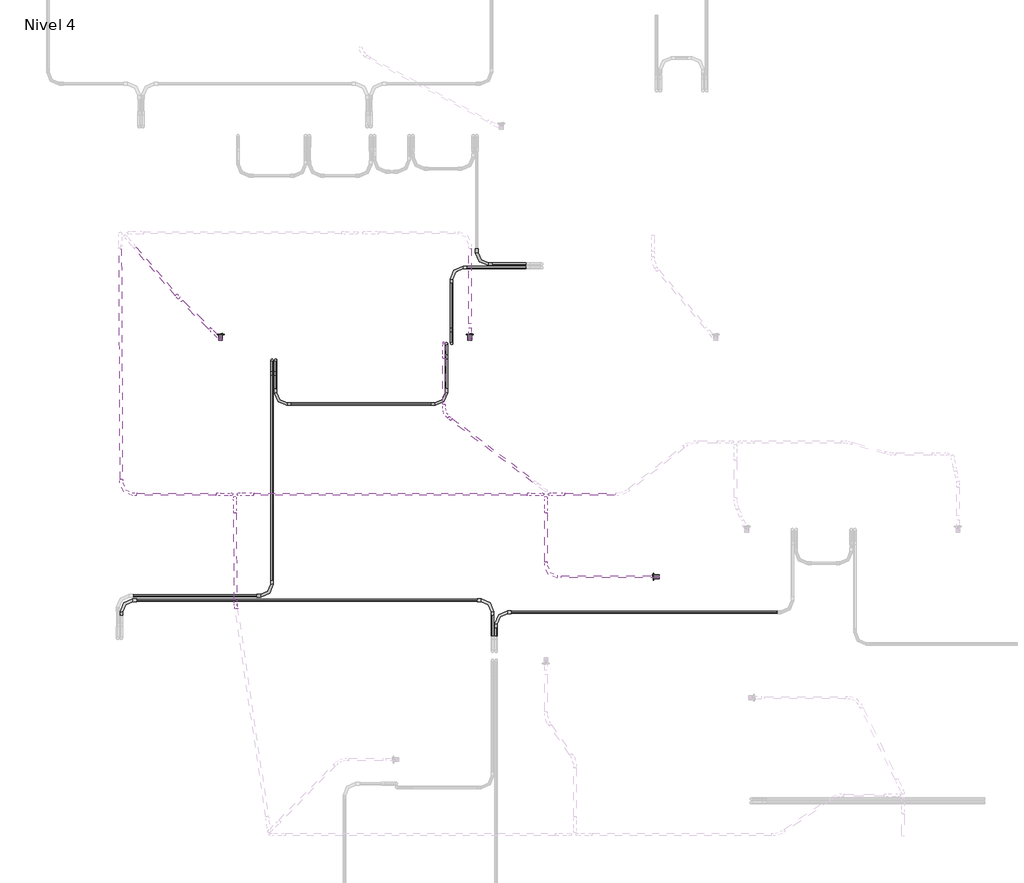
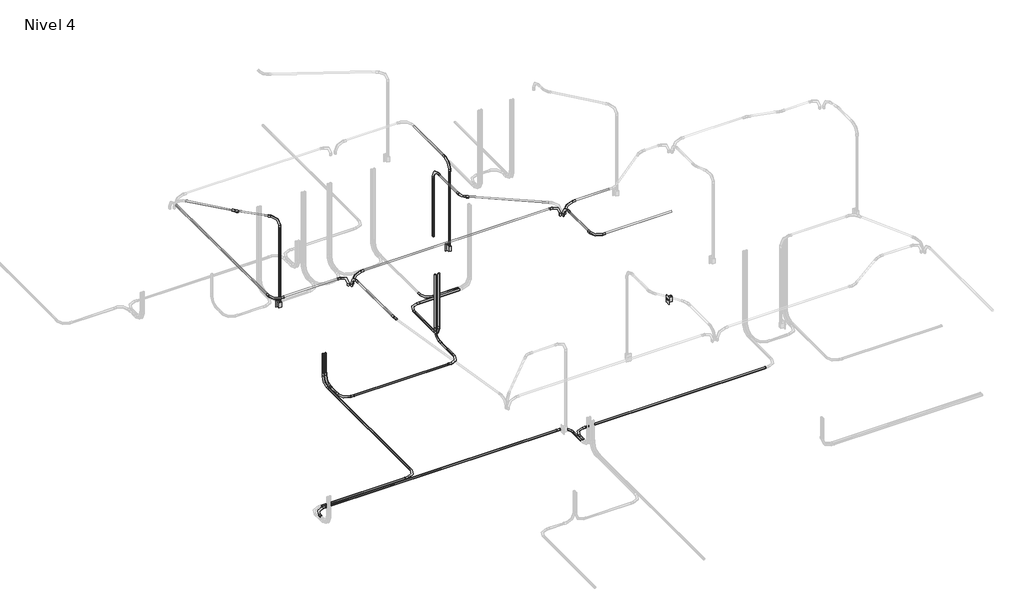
# One storey, part 3 of 9: 31 cable carrier segments, 26 cable carrier fittings, 3 switching devices.
"""IFC4 building model written with IfcOpenShell, lengths in millimetres."""

from ifc_helpers import new_model, si_unit, point, frame, frame_2d, origin, place, context, project, spatial, circle_curve, trimmed, segment, composite_curve, outline, extrude, transform, mapped, element, save
from components import m_codo_de_tubo_extremo_liso_pvc_9da73e12, m_codo_de_tubo_extremo_liso_pvc_102f0f41, m_codo_de_tubo_extremo_liso_pvc_01dea03c, m_codo_de_tubo_extremo_liso_pvc_a375e3ab, m_codo_de_tubo_extremo_liso_pvc_c9202d06, m_codo_de_tubo_extremo_liso_pvc_6ad27ddb, switching_device_22fed34b

model = new_model("IFC4")

# Units and contexts
model_context = context("Model", 3, world=origin())
ifc_project = project(units=[si_unit("LENGTHUNIT", "METRE", prefix="MILLI")], contexts=[model_context])

# Site, building, storey
site = spatial("IfcSite", under=ifc_project)
building = spatial("IfcBuilding", under=site)
storey = spatial("IfcBuildingStorey", under=building, Name="Nivel 4", Elevation=8100.0)

# Cable carrier fittings
placement = place(None, origin())
m_codo_de_tubo_extremo_liso_pvc_shape = m_codo_de_tubo_extremo_liso_pvc_9da73e12(model_context)
element("IfcCableCarrierFitting", 1, ObjectType="M_Codo de tubo - Extremo liso - PVC : CODO POTENCIA", at=placement, inside=storey, context=model_context, shape_type="MappedRepresentation", body=[
    mapped(m_codo_de_tubo_extremo_liso_pvc_shape, transform((3566.4756648, 7723.1932788, 8030.0), x_axis=(0.0, -1.0, 0.0), y_axis=(1.0, 0.0, 0.0), z_axis=(0.0, 0.0, 1.0))),
])
element("IfcCableCarrierFitting", 2, ObjectType="M_Codo de tubo - Extremo liso - PVC : CODO POTENCIA", at=placement, inside=storey, context=model_context, shape_type="MappedRepresentation", body=[
    mapped(m_codo_de_tubo_extremo_liso_pvc_shape, transform((3314.6371118, 7687.1296392, 8030.0), x_axis=(-1.0, 0.0, 0.0), y_axis=(0.0, -1.0, 0.0), z_axis=(0.0, 0.0, 1.0))),
])
element("IfcCableCarrierFitting", 3, ObjectType="M_Codo de tubo - Extremo liso - PVC : CODO POTENCIA", at=placement, inside=storey, context=model_context, shape_type="MappedRepresentation", body=[
    mapped(m_codo_de_tubo_extremo_liso_pvc_shape, transform((1557.2988878, 6764.6371118, 8030.0), x_axis=(0.0, 0.0, -1.0), y_axis=(0.0, -1.0, 0.0), z_axis=(-1.0, 0.0, 0.0))),
])
element("IfcCableCarrierFitting", 4, ObjectType="M_Codo de tubo - Extremo liso - PVC : CODO POTENCIA", at=placement, inside=storey, context=model_context, shape_type="MappedRepresentation", body=[
    mapped(m_codo_de_tubo_extremo_liso_pvc_shape, transform((1521.2352482, 6764.6371118, 8030.0), x_axis=(0.0, 0.0, -1.0), y_axis=(0.0, -1.0, 0.0), z_axis=(-1.0, 0.0, 0.0))),
])
element("IfcCableCarrierFitting", 5, ObjectType="M_Codo de tubo - Extremo liso - PVC : CODO POTENCIA", at=placement, inside=storey, context=model_context, shape_type="MappedRepresentation", body=[
    mapped(m_codo_de_tubo_extremo_liso_pvc_shape, transform((1521.2352482, 4410.0, 8030.0), x_axis=(1.0, 0.0, 0.0), y_axis=(0.0, 1.0, 0.0), z_axis=(0.0, 0.0, 1.0))),
])
element("IfcCableCarrierFitting", 6, ObjectType="M_Codo de tubo - Extremo liso - PVC : CODO POTENCIA", at=placement, inside=storey, context=model_context, shape_type="MappedRepresentation", body=[
    mapped(m_codo_de_tubo_extremo_liso_pvc_shape, transform((1557.2988878, 6324.6371118, 8030.0), x_axis=(0.0, -1.0, 0.0), y_axis=(1.0, 0.0, 0.0), z_axis=(0.0, 0.0, 1.0))),
])
element("IfcCableCarrierFitting", 7, ObjectType="M_Codo de tubo - Extremo liso - PVC : CODO POTENCIA", at=placement, inside=storey, context=model_context, shape_type="MappedRepresentation", body=[
    mapped(m_codo_de_tubo_extremo_liso_pvc_shape, transform((3262.3394839, 6324.6371118, 8030.0), x_axis=(1.0, 0.0, 0.0), y_axis=(0.0, 1.0, 0.0), z_axis=(0.0, 0.0, 1.0))),
])
element("IfcCableCarrierFitting", 8, ObjectType="M_Codo de tubo - Extremo liso - PVC : CODO POTENCIA", at=placement, inside=storey, context=model_context, shape_type="MappedRepresentation", body=[
    mapped(m_codo_de_tubo_extremo_liso_pvc_shape, transform((3723.3033726, 4365.3628882, 8030.0), x_axis=(0.0, 1.0, 0.0), y_axis=(-1.0, 0.0, 0.0), z_axis=(0.0, 0.0, 1.0))),
])
element("IfcCableCarrierFitting", 9, ObjectType="M_Codo de tubo - Extremo liso - PVC : CODO POTENCIA", at=placement, inside=storey, context=model_context, shape_type="MappedRepresentation", body=[
    mapped(m_codo_de_tubo_extremo_liso_pvc_shape, transform((17.0761068, 4365.3628882, 8030.0), x_axis=(-1.0, 0.0, 0.0), y_axis=(0.0, -1.0, 0.0), z_axis=(0.0, 0.0, 1.0))),
])
element("IfcCableCarrierFitting", 10, ObjectType="M_Codo de tubo - Extremo liso - PVC : CODO POTENCIA", at=placement, inside=storey, context=model_context, shape_type="MappedRepresentation", body=[
    mapped(m_codo_de_tubo_extremo_liso_pvc_shape, transform((3759.3670122, 4245.3628882, 8030.0), x_axis=(-1.0, 0.0, 0.0), y_axis=(0.0, -1.0, 0.0), z_axis=(0.0, 0.0, 1.0))),
])
element("IfcCableCarrierFitting", 11, ObjectType="M_Codo de tubo - Extremo liso - PVC : CODO POTENCIA", at=placement, inside=storey, context=model_context, shape_type="MappedRepresentation", body=[
    mapped(m_codo_de_tubo_extremo_liso_pvc_shape, transform((3314.6371118, 6929.6371118, 8030.0), x_axis=(0.0, -1.0, 0.0), y_axis=(0.0, 0.0, 1.0), z_axis=(-1.0, 0.0, 0.0))),
])
element("IfcCableCarrierFitting", 12, ObjectType="M_Codo de tubo - Extremo liso - PVC : CODO POTENCIA", at=placement, inside=storey, context=model_context, shape_type="MappedRepresentation", body=[
    mapped(m_codo_de_tubo_extremo_liso_pvc_shape, transform((3262.3394839, 6929.6371118, 8030.0), x_axis=(0.0, 1.0, 0.0), y_axis=(0.0, 0.0, 1.0), z_axis=(1.0, 0.0, 0.0))),
])
element("IfcCableCarrierFitting", 13, ObjectType="M_Codo de tubo - Extremo liso - PVC : CODO ILUMINACION", at=placement, inside=storey, context=model_context, shape_type="MappedRepresentation", body=[
    mapped(m_codo_de_tubo_extremo_liso_pvc_shape, transform((1185.6193562, 5423.1835713, 10650.0), x_axis=(-1.0, 0.0, 0.0), y_axis=(0.0, 0.0, -1.0), z_axis=(0.0, -1.0, 0.0))),
])
element("IfcCableCarrierFitting", 14, ObjectType="M_Codo de tubo - Extremo liso - PVC : CODO ILUMINACION", at=placement, inside=storey, context=model_context, shape_type="MappedRepresentation", body=[
    mapped(m_codo_de_tubo_extremo_liso_pvc_shape, transform((4293.3404165, 5423.1835713, 10650.0), x_axis=(-1.0, 0.0, 0.0), y_axis=(0.0, 0.0, -1.0), z_axis=(0.0, -1.0, 0.0))),
])
element("IfcCableCarrierFitting", 15, ObjectType="M_Codo de tubo - Extremo liso - PVC : CODO ILUMINACION", at=placement, inside=storey, context=model_context, shape_type="MappedRepresentation", body=[
    mapped(m_codo_de_tubo_extremo_liso_pvc_shape, transform((3497.5007971, 6971.8611243, 10650.0), x_axis=(0.0, 0.0, 1.0), y_axis=(0.0, 1.0, 0.0), z_axis=(-1.0, 0.0, 0.0))),
])
element("IfcCableCarrierFitting", 16, ObjectType="M_Codo de tubo - Extremo liso - PVC : CODO ILUMINACION", at=placement, inside=storey, context=model_context, shape_type="MappedRepresentation", body=[
    mapped(m_codo_de_tubo_extremo_liso_pvc_shape, transform((1007.1275387, 6971.8611243, 10650.0), x_axis=(0.0, 0.0, 1.0), y_axis=(-0.7107309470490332, 0.7034639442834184, 0.0), z_axis=(-0.7034639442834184, -0.7107309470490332, 0.0))),
])
element("IfcCableCarrierFitting", 17, ObjectType="M_Codo de tubo - Extremo liso - PVC : CODO ILUMINACION", at=placement, inside=storey, context=model_context, shape_type="MappedRepresentation", body=[
    mapped(m_codo_de_tubo_extremo_liso_pvc_shape, transform((4257.1192172, 5391.3745096, 10650.0), x_axis=(0.0, 1.0, 0.0), y_axis=(0.0, 0.0, -1.0), z_axis=(-1.0, 0.0, 0.0))),
])
element("IfcCableCarrierFitting", 18, ObjectType="M_Codo de tubo - Extremo liso - PVC : CODO ILUMINACION", at=placement, inside=storey, context=model_context, shape_type="MappedRepresentation", body=[
    mapped(m_codo_de_tubo_extremo_liso_pvc_shape, transform((4257.1192172, 4599.1450877, 10650.0), x_axis=(0.0, -1.0, 0.0), y_axis=(1.0, 0.0, 0.0), z_axis=(0.0, 0.0, 1.0))),
])
element("IfcCableCarrierFitting", 19, ObjectType="M_Codo de tubo - Extremo liso - PVC : CODO ILUMINACION", at=placement, inside=storey, context=model_context, shape_type="MappedRepresentation", body=[
    mapped(m_codo_de_tubo_extremo_liso_pvc_shape, transform((3238.5891384, 6934.3825168, 10650.0), x_axis=(0.0, 1.0, 0.0), y_axis=(0.0, 0.0, -1.0), z_axis=(-1.0, 0.0, 0.0))),
])
element("IfcCableCarrierFitting", 20, ObjectType="M_Codo de tubo - Extremo liso - PVC : CODO ILUMINACION", at=placement, inside=storey, context=model_context, shape_type="MappedRepresentation", body=[
    mapped(m_codo_de_tubo_extremo_liso_pvc_shape, transform((1149.6596259, 5391.3585606, 10650.0), x_axis=(-0.007684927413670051, 0.999970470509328, 0.0), y_axis=(0.0, 0.0, -1.0000000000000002), z_axis=(-0.999970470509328, -0.007684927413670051, 0.0))),
])
m_codo_de_tubo_extremo_liso_pvc_2_shape = m_codo_de_tubo_extremo_liso_pvc_102f0f41(model_context)
element("IfcCableCarrierFitting", 21, ObjectType="M_Codo de tubo - Extremo liso - PVC : CODO ILUMINACION", at=placement, inside=storey, context=model_context, shape_type="MappedRepresentation", body=[
    mapped(m_codo_de_tubo_extremo_liso_pvc_2_shape, transform((1117.5890953, 5423.1835713, 10650.0), x_axis=(1.0, 0.0, 0.0), y_axis=(0.0, 0.0, 1.0), z_axis=(0.0, -1.0, 0.0))),
])
element("IfcCableCarrierFitting", 22, ObjectType="M_Codo de tubo - Extremo liso - PVC : CODO ILUMINACION", at=placement, inside=storey, context=model_context, shape_type="MappedRepresentation", body=[
    mapped(m_codo_de_tubo_extremo_liso_pvc_2_shape, transform((4225.3101555, 5423.1835713, 10650.0), x_axis=(1.0, 0.0, 0.0), y_axis=(0.0, 0.0, 1.0), z_axis=(0.0, -1.0, 0.0))),
])
m_codo_de_tubo_extremo_liso_pvc_3_shape = m_codo_de_tubo_extremo_liso_pvc_01dea03c(model_context)
element("IfcCableCarrierFitting", 23, ObjectType="M_Codo de tubo - Extremo liso - PVC : CODO ILUMINACION", at=placement, inside=storey, context=model_context, shape_type="MappedRepresentation", body=[
    mapped(m_codo_de_tubo_extremo_liso_pvc_3_shape, transform((590.9641731, 7383.7693491, 10650.0), x_axis=(0.656059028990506, -0.7547095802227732, 0.0), y_axis=(0.7547095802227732, 0.656059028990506, 0.0), z_axis=(0.0, 0.0, 1.0))),
])
m_codo_de_tubo_extremo_liso_pvc_4_shape = m_codo_de_tubo_extremo_liso_pvc_a375e3ab(model_context)
element("IfcCableCarrierFitting", 24, ObjectType="M_Codo de tubo - Extremo liso - PVC : CODO ILUMINACION", at=placement, inside=storey, context=model_context, shape_type="MappedRepresentation", body=[
    mapped(m_codo_de_tubo_extremo_liso_pvc_4_shape, transform((16.4105658, 5423.1835713, 10650.0), x_axis=(0.004558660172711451, -0.9999896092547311, 0.0), y_axis=(0.9999896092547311, 0.004558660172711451, 0.0), z_axis=(0.0, 0.0, 1.0))),
])
m_codo_de_tubo_extremo_liso_pvc_5_shape = m_codo_de_tubo_extremo_liso_pvc_c9202d06(model_context)
element("IfcCableCarrierFitting", 25, ObjectType="M_Codo de tubo - Extremo liso - PVC : CODO ILUMINACION", at=placement, inside=storey, context=model_context, shape_type="MappedRepresentation", body=[
    mapped(m_codo_de_tubo_extremo_liso_pvc_5_shape, transform((3238.5891384, 6226.6682863, 10650.0), x_axis=(0.0, -1.0, 0.0), y_axis=(1.0, 0.0, 0.0), z_axis=(0.0, 0.0, 1.0))),
])
m_codo_de_tubo_extremo_liso_pvc_6_shape = m_codo_de_tubo_extremo_liso_pvc_6ad27ddb(model_context)
element("IfcCableCarrierFitting", 26, ObjectType="M_Codo de tubo - Extremo liso - PVC : CODO ILUMINACION", at=placement, inside=storey, context=model_context, shape_type="MappedRepresentation", body=[
    mapped(m_codo_de_tubo_extremo_liso_pvc_6_shape, transform((1157.8468904, 4326.0234866, 10650.0), x_axis=(0.007684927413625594, -0.9999704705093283, 0.0), y_axis=(0.9999704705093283, 0.007684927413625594, 0.0), z_axis=(0.0, 0.0, 1.0))),
])

# Cable carrier segments
element("IfcCableCarrierSegment", 27, ObjectType="PVC-SEL, POTENCIA", at=placement, inside=storey, context=model_context, shape_type="SweptSolid", body=[
    extrude(outline(composite_curve([segment(trimmed(circle_curve(frame_2d((7723.1932788, 8030.0)), 11.71), [point((7711.4832788, 8030.0))], [point((7723.1932788, 8041.71))], False, "CARTESIAN"), True, "CONTINUOUS"), segment(trimmed(circle_curve(frame_2d((7723.1932788, 8030.0)), 11.71), [point((7723.1932788, 8041.71))], [point((7734.9032788, 8030.0))], False, "CARTESIAN"), True, "CONTINUOUS"), segment(trimmed(circle_curve(frame_2d((7723.1932788, 8030.0)), 11.71), [point((7734.9032788, 8030.0))], [point((7723.1932788, 8018.29))], False, "CARTESIAN"), True, "CONTINUOUS"), segment(trimmed(circle_curve(frame_2d((7723.1932788, 8030.0)), 11.71), [point((7723.1932788, 8018.29))], [point((7711.4832788, 8030.0))], False, "CARTESIAN"), True, "CONTINUOUS")], self_intersect=False)), frame((3718.8756648, 0.0, 0.0), z_axis=(1.0, 0.0, 0.0), x_axis=(0.0, 1.0, 0.0)), (0.0, 0.0, 1.0), 343.361447),
])
element("IfcCableCarrierSegment", 28, ObjectType="PVC-SEL, POTENCIA", at=placement, inside=storey, context=model_context, shape_type="SweptSolid", body=[
    extrude(outline(composite_curve([segment(trimmed(circle_curve(frame_2d((7687.1296392, 8030.0)), 11.71), [point((7698.8396392, 8030.0))], [point((7687.1296392, 8018.29))], False, "CARTESIAN"), True, "CONTINUOUS"), segment(trimmed(circle_curve(frame_2d((7687.1296392, 8030.0)), 11.71), [point((7687.1296392, 8018.29))], [point((7675.4196392, 8030.0))], False, "CARTESIAN"), True, "CONTINUOUS"), segment(trimmed(circle_curve(frame_2d((7687.1296392, 8030.0)), 11.71), [point((7675.4196392, 8030.0))], [point((7687.1296392, 8041.71))], False, "CARTESIAN"), True, "CONTINUOUS"), segment(trimmed(circle_curve(frame_2d((7687.1296392, 8030.0)), 11.71), [point((7687.1296392, 8041.71))], [point((7698.8396392, 8030.0))], False, "CARTESIAN"), True, "CONTINUOUS")], self_intersect=False)), frame((3467.0371118, 0.0, 0.0), z_axis=(1.0, 0.0, 0.0), x_axis=(0.0, 1.0, 0.0)), (0.0, 0.0, 1.0), 595.2),
])
element("IfcCableCarrierSegment", 29, ObjectType="PVC-SEL, POTENCIA", at=placement, inside=storey, context=model_context, shape_type="SweptSolid", body=[
    extrude(outline(composite_curve([segment(trimmed(circle_curve(frame_2d((8030.0, 3314.6371118)), 11.71), [point((8030.0, 3302.9271118))], [point((8018.29, 3314.6371118))], False, "CARTESIAN"), True, "CONTINUOUS"), segment(trimmed(circle_curve(frame_2d((8030.0, 3314.6371118)), 11.71), [point((8018.29, 3314.6371118))], [point((8030.0, 3326.3471118))], False, "CARTESIAN"), True, "CONTINUOUS"), segment(trimmed(circle_curve(frame_2d((8030.0, 3314.6371118)), 11.71), [point((8030.0, 3326.3471118))], [point((8041.71, 3314.6371118))], False, "CARTESIAN"), True, "CONTINUOUS"), segment(trimmed(circle_curve(frame_2d((8030.0, 3314.6371118)), 11.71), [point((8041.71, 3314.6371118))], [point((8030.0, 3302.9271118))], False, "CARTESIAN"), True, "CONTINUOUS")], self_intersect=False)), frame((0.0, 7082.0371118, 0.0), z_axis=(0.0, 1.0, 0.0), x_axis=(0.0, 0.0, 1.0)), (0.0, 0.0, 1.0), 452.6925274),
])
element("IfcCableCarrierSegment", 30, ObjectType="PVC-SEL, POTENCIA", at=placement, inside=storey, context=model_context, shape_type="SweptSolid", body=[
    extrude(outline(composite_curve([segment(trimmed(circle_curve(frame_2d((8030.0, 1557.2988878)), 11.71), [point((8030.0, 1545.5888878))], [point((8018.29, 1557.2988878))], False, "CARTESIAN"), True, "CONTINUOUS"), segment(trimmed(circle_curve(frame_2d((8030.0, 1557.2988878)), 11.71), [point((8018.29, 1557.2988878))], [point((8030.0, 1569.0088878))], False, "CARTESIAN"), True, "CONTINUOUS"), segment(trimmed(circle_curve(frame_2d((8030.0, 1557.2988878)), 11.71), [point((8030.0, 1569.0088878))], [point((8041.71, 1557.2988878))], False, "CARTESIAN"), True, "CONTINUOUS"), segment(trimmed(circle_curve(frame_2d((8030.0, 1557.2988878)), 11.71), [point((8041.71, 1557.2988878))], [point((8030.0, 1545.5888878))], False, "CARTESIAN"), True, "CONTINUOUS")], self_intersect=False)), frame((0.0, 6477.0371118, 0.0), z_axis=(0.0, 1.0, 0.0), x_axis=(0.0, 0.0, 1.0)), (0.0, 0.0, 1.0), 135.2),
])
element("IfcCableCarrierSegment", 31, ObjectType="PVC-SEL, POTENCIA", at=placement, inside=storey, context=model_context, shape_type="SweptSolid", body=[
    extrude(outline(composite_curve([segment(trimmed(circle_curve(frame_2d((1557.2988878, 6764.6371118)), 11.71), [point((1569.0088878, 6764.6371118))], [point((1557.2988878, 6752.9271118))], False, "CARTESIAN"), True, "CONTINUOUS"), segment(trimmed(circle_curve(frame_2d((1557.2988878, 6764.6371118)), 11.71), [point((1557.2988878, 6752.9271118))], [point((1545.5888878, 6764.6371118))], False, "CARTESIAN"), True, "CONTINUOUS"), segment(trimmed(circle_curve(frame_2d((1557.2988878, 6764.6371118)), 11.71), [point((1545.5888878, 6764.6371118))], [point((1557.2988878, 6776.3471118))], False, "CARTESIAN"), True, "CONTINUOUS"), segment(trimmed(circle_curve(frame_2d((1557.2988878, 6764.6371118)), 11.71), [point((1557.2988878, 6776.3471118))], [point((1569.0088878, 6764.6371118))], False, "CARTESIAN"), True, "CONTINUOUS")], self_intersect=False)), frame((0.0, 0.0, 8182.4), z_axis=(0.0, 0.0, 1.0), x_axis=(1.0, 0.0, 0.0)), (0.0, 0.0, 1.0), 297.3020537),
])
element("IfcCableCarrierSegment", 32, ObjectType="PVC-SEL, POTENCIA", at=placement, inside=storey, context=model_context, shape_type="SweptSolid", body=[
    extrude(outline(composite_curve([segment(trimmed(circle_curve(frame_2d((8030.0, 1521.2352482)), 11.71), [point((8030.0, 1509.5252482))], [point((8018.29, 1521.2352482))], False, "CARTESIAN"), True, "CONTINUOUS"), segment(trimmed(circle_curve(frame_2d((8030.0, 1521.2352482)), 11.71), [point((8018.29, 1521.2352482))], [point((8030.0, 1532.9452482))], False, "CARTESIAN"), True, "CONTINUOUS"), segment(trimmed(circle_curve(frame_2d((8030.0, 1521.2352482)), 11.71), [point((8030.0, 1532.9452482))], [point((8041.71, 1521.2352482))], False, "CARTESIAN"), True, "CONTINUOUS"), segment(trimmed(circle_curve(frame_2d((8030.0, 1521.2352482)), 11.71), [point((8041.71, 1521.2352482))], [point((8030.0, 1509.5252482))], False, "CARTESIAN"), True, "CONTINUOUS")], self_intersect=False)), frame((0.0, 4562.4, 0.0), z_axis=(0.0, 1.0, 0.0), x_axis=(0.0, 0.0, 1.0)), (0.0, 0.0, 1.0), 2049.8371118),
])
element("IfcCableCarrierSegment", 33, ObjectType="PVC-SEL, POTENCIA", at=placement, inside=storey, context=model_context, shape_type="SweptSolid", body=[
    extrude(outline(composite_curve([segment(trimmed(circle_curve(frame_2d((1521.2352482, 6764.6371118)), 11.71), [point((1532.9452482, 6764.6371118))], [point((1521.2352482, 6752.9271118))], False, "CARTESIAN"), True, "CONTINUOUS"), segment(trimmed(circle_curve(frame_2d((1521.2352482, 6764.6371118)), 11.71), [point((1521.2352482, 6752.9271118))], [point((1509.5252482, 6764.6371118))], False, "CARTESIAN"), True, "CONTINUOUS"), segment(trimmed(circle_curve(frame_2d((1521.2352482, 6764.6371118)), 11.71), [point((1509.5252482, 6764.6371118))], [point((1521.2352482, 6776.3471118))], False, "CARTESIAN"), True, "CONTINUOUS"), segment(trimmed(circle_curve(frame_2d((1521.2352482, 6764.6371118)), 11.71), [point((1521.2352482, 6776.3471118))], [point((1532.9452482, 6764.6371118))], False, "CARTESIAN"), True, "CONTINUOUS")], self_intersect=False)), frame((0.0, 0.0, 8182.4), z_axis=(0.0, 0.0, 1.0), x_axis=(1.0, 0.0, 0.0)), (0.0, 0.0, 1.0), 297.3020537),
])
element("IfcCableCarrierSegment", 34, ObjectType="PVC-SEL, POTENCIA", at=placement, inside=storey, context=model_context, shape_type="SweptSolid", body=[
    extrude(outline(composite_curve([segment(trimmed(circle_curve(frame_2d((8030.0, 3759.3670122)), 11.71), [point((8030.0, 3771.0770122))], [point((8041.71, 3759.3670122))], False, "CARTESIAN"), True, "CONTINUOUS"), segment(trimmed(circle_curve(frame_2d((8030.0, 3759.3670122)), 11.71), [point((8041.71, 3759.3670122))], [point((8030.0, 3747.6570122))], False, "CARTESIAN"), True, "CONTINUOUS"), segment(trimmed(circle_curve(frame_2d((8030.0, 3759.3670122)), 11.71), [point((8030.0, 3747.6570122))], [point((8018.29, 3759.3670122))], False, "CARTESIAN"), True, "CONTINUOUS"), segment(trimmed(circle_curve(frame_2d((8030.0, 3759.3670122)), 11.71), [point((8018.29, 3759.3670122))], [point((8030.0, 3771.0770122))], False, "CARTESIAN"), True, "CONTINUOUS")], self_intersect=False)), frame((0.0, 4007.7628882, 0.0), z_axis=(0.0, 1.0, 0.0), x_axis=(0.0, 0.0, 1.0)), (0.0, 0.0, 1.0), 85.2),
])
element("IfcCableCarrierSegment", 35, ObjectType="PVC-SEL, POTENCIA", at=placement, inside=storey, context=model_context, shape_type="SweptSolid", body=[
    extrude(outline(composite_curve([segment(trimmed(circle_curve(frame_2d((8030.0, 3723.3033726)), 11.71), [point((8030.0, 3735.0133726))], [point((8041.71, 3723.3033726))], False, "CARTESIAN"), True, "CONTINUOUS"), segment(trimmed(circle_curve(frame_2d((8030.0, 3723.3033726)), 11.71), [point((8041.71, 3723.3033726))], [point((8030.0, 3711.5933726))], False, "CARTESIAN"), True, "CONTINUOUS"), segment(trimmed(circle_curve(frame_2d((8030.0, 3723.3033726)), 11.71), [point((8030.0, 3711.5933726))], [point((8018.29, 3723.3033726))], False, "CARTESIAN"), True, "CONTINUOUS"), segment(trimmed(circle_curve(frame_2d((8030.0, 3723.3033726)), 11.71), [point((8018.29, 3723.3033726))], [point((8030.0, 3735.0133726))], False, "CARTESIAN"), True, "CONTINUOUS")], self_intersect=False)), frame((0.0, 4007.7628882, 0.0), z_axis=(0.0, 1.0, 0.0), x_axis=(0.0, 0.0, 1.0)), (0.0, 0.0, 1.0), 205.2),
])
element("IfcCableCarrierSegment", 36, ObjectType="PVC-SEL, POTENCIA", at=placement, inside=storey, context=model_context, shape_type="SweptSolid", body=[
    extrude(outline(composite_curve([segment(trimmed(circle_curve(frame_2d((4410.0, 8030.0)), 11.71), [point((4421.71, 8030.0))], [point((4410.0, 8018.29))], False, "CARTESIAN"), True, "CONTINUOUS"), segment(trimmed(circle_curve(frame_2d((4410.0, 8030.0)), 11.71), [point((4410.0, 8018.29))], [point((4398.29, 8030.0))], False, "CARTESIAN"), True, "CONTINUOUS"), segment(trimmed(circle_curve(frame_2d((4410.0, 8030.0)), 11.71), [point((4398.29, 8030.0))], [point((4410.0, 8041.71))], False, "CARTESIAN"), True, "CONTINUOUS"), segment(trimmed(circle_curve(frame_2d((4410.0, 8030.0)), 11.71), [point((4410.0, 8041.71))], [point((4421.71, 8030.0))], False, "CARTESIAN"), True, "CONTINUOUS")], self_intersect=False)), frame((133.4124672, 0.0, 0.0), z_axis=(1.0, 0.0, 0.0), x_axis=(0.0, 1.0, 0.0)), (0.0, 0.0, 1.0), 1235.422781),
])
element("IfcCableCarrierSegment", 37, ObjectType="PVC-SEL, POTENCIA", at=placement, inside=storey, context=model_context, shape_type="SweptSolid", body=[
    extrude(outline(composite_curve([segment(trimmed(circle_curve(frame_2d((6324.6371118, 8030.0)), 11.71), [point((6312.9271118, 8030.0))], [point((6324.6371118, 8041.71))], False, "CARTESIAN"), True, "CONTINUOUS"), segment(trimmed(circle_curve(frame_2d((6324.6371118, 8030.0)), 11.71), [point((6324.6371118, 8041.71))], [point((6336.3471118, 8030.0))], False, "CARTESIAN"), True, "CONTINUOUS"), segment(trimmed(circle_curve(frame_2d((6324.6371118, 8030.0)), 11.71), [point((6336.3471118, 8030.0))], [point((6324.6371118, 8018.29))], False, "CARTESIAN"), True, "CONTINUOUS"), segment(trimmed(circle_curve(frame_2d((6324.6371118, 8030.0)), 11.71), [point((6324.6371118, 8018.29))], [point((6312.9271118, 8030.0))], False, "CARTESIAN"), True, "CONTINUOUS")], self_intersect=False)), frame((1709.6988878, 0.0, 0.0), z_axis=(1.0, 0.0, 0.0), x_axis=(0.0, 1.0, 0.0)), (0.0, 0.0, 1.0), 1400.2405961),
])
element("IfcCableCarrierSegment", 38, ObjectType="PVC-SEL, POTENCIA", at=placement, inside=storey, context=model_context, shape_type="SweptSolid", body=[
    extrude(outline(composite_curve([segment(trimmed(circle_curve(frame_2d((8030.0, 3262.3394839)), 11.71), [point((8030.0, 3274.0494839))], [point((8041.71, 3262.3394839))], False, "CARTESIAN"), True, "CONTINUOUS"), segment(trimmed(circle_curve(frame_2d((8030.0, 3262.3394839)), 11.71), [point((8041.71, 3262.3394839))], [point((8030.0, 3250.6294839))], False, "CARTESIAN"), True, "CONTINUOUS"), segment(trimmed(circle_curve(frame_2d((8030.0, 3262.3394839)), 11.71), [point((8030.0, 3250.6294839))], [point((8018.29, 3262.3394839))], False, "CARTESIAN"), True, "CONTINUOUS"), segment(trimmed(circle_curve(frame_2d((8030.0, 3262.3394839)), 11.71), [point((8018.29, 3262.3394839))], [point((8030.0, 3274.0494839))], False, "CARTESIAN"), True, "CONTINUOUS")], self_intersect=False)), frame((0.0, 6477.0371118, 0.0), z_axis=(0.0, 1.0, 0.0), x_axis=(0.0, 0.0, 1.0)), (0.0, 0.0, 1.0), 300.2),
])
element("IfcCableCarrierSegment", 39, ObjectType="PVC-SEL, POTENCIA", at=placement, inside=storey, context=model_context, shape_type="SweptSolid", body=[
    extrude(outline(composite_curve([segment(trimmed(circle_curve(frame_2d((4365.3628882, 8030.0)), 11.71), [point((4377.0728882, 8030.0))], [point((4365.3628882, 8018.29))], False, "CARTESIAN"), True, "CONTINUOUS"), segment(trimmed(circle_curve(frame_2d((4365.3628882, 8030.0)), 11.71), [point((4365.3628882, 8018.29))], [point((4353.6528882, 8030.0))], False, "CARTESIAN"), True, "CONTINUOUS"), segment(trimmed(circle_curve(frame_2d((4365.3628882, 8030.0)), 11.71), [point((4353.6528882, 8030.0))], [point((4365.3628882, 8041.71))], False, "CARTESIAN"), True, "CONTINUOUS"), segment(trimmed(circle_curve(frame_2d((4365.3628882, 8030.0)), 11.71), [point((4365.3628882, 8041.71))], [point((4377.0728882, 8030.0))], False, "CARTESIAN"), True, "CONTINUOUS")], self_intersect=False)), frame((169.4761068, 0.0, 0.0), z_axis=(1.0, 0.0, 0.0), x_axis=(0.0, 1.0, 0.0)), (0.0, 0.0, 1.0), 3401.4272658),
])
element("IfcCableCarrierSegment", 40, ObjectType="PVC-SEL, POTENCIA", at=placement, inside=storey, context=model_context, shape_type="SweptSolid", body=[
    extrude(outline(composite_curve([segment(trimmed(circle_curve(frame_2d((4245.3628882, 8030.0)), 11.71), [point((4257.0728882, 8030.0))], [point((4245.3628882, 8018.29))], False, "CARTESIAN"), True, "CONTINUOUS"), segment(trimmed(circle_curve(frame_2d((4245.3628882, 8030.0)), 11.71), [point((4245.3628882, 8018.29))], [point((4233.6528882, 8030.0))], False, "CARTESIAN"), True, "CONTINUOUS"), segment(trimmed(circle_curve(frame_2d((4245.3628882, 8030.0)), 11.71), [point((4233.6528882, 8030.0))], [point((4245.3628882, 8041.71))], False, "CARTESIAN"), True, "CONTINUOUS"), segment(trimmed(circle_curve(frame_2d((4245.3628882, 8030.0)), 11.71), [point((4245.3628882, 8041.71))], [point((4257.0728882, 8030.0))], False, "CARTESIAN"), True, "CONTINUOUS")], self_intersect=False)), frame((3911.7670122, 0.0, 0.0), z_axis=(1.0, 0.0, 0.0), x_axis=(0.0, 1.0, 0.0)), (0.0, 0.0, 1.0), 2655.2595015),
])
element("IfcCableCarrierSegment", 41, ObjectType="PVC-SEL, POTENCIA", at=placement, inside=storey, context=model_context, shape_type="SweptSolid", body=[
    extrude(outline(composite_curve([segment(trimmed(circle_curve(frame_2d((3314.6371118, 6929.6371118)), 11.71), [point((3302.9271118, 6929.6371118))], [point((3314.6371118, 6941.3471118))], False, "CARTESIAN"), True, "CONTINUOUS"), segment(trimmed(circle_curve(frame_2d((3314.6371118, 6929.6371118)), 11.71), [point((3314.6371118, 6941.3471118))], [point((3326.3471118, 6929.6371118))], False, "CARTESIAN"), True, "CONTINUOUS"), segment(trimmed(circle_curve(frame_2d((3314.6371118, 6929.6371118)), 11.71), [point((3326.3471118, 6929.6371118))], [point((3314.6371118, 6917.9271118))], False, "CARTESIAN"), True, "CONTINUOUS"), segment(trimmed(circle_curve(frame_2d((3314.6371118, 6929.6371118)), 11.71), [point((3314.6371118, 6917.9271118))], [point((3302.9271118, 6929.6371118))], False, "CARTESIAN"), True, "CONTINUOUS")], self_intersect=False)), frame((0.0, 0.0, 8182.4), z_axis=(0.0, 0.0, 1.0), x_axis=(1.0, 0.0, 0.0)), (0.0, 0.0, 1.0), 817.6),
])
element("IfcCableCarrierSegment", 42, ObjectType="PVC-SEL, POTENCIA", at=placement, inside=storey, context=model_context, shape_type="SweptSolid", body=[
    extrude(outline(composite_curve([segment(trimmed(circle_curve(frame_2d((3262.3394839, 6929.6371118)), 11.71), [point((3250.6294839, 6929.6371118))], [point((3262.3394839, 6941.3471118))], False, "CARTESIAN"), True, "CONTINUOUS"), segment(trimmed(circle_curve(frame_2d((3262.3394839, 6929.6371118)), 11.71), [point((3262.3394839, 6941.3471118))], [point((3274.0494839, 6929.6371118))], False, "CARTESIAN"), True, "CONTINUOUS"), segment(trimmed(circle_curve(frame_2d((3262.3394839, 6929.6371118)), 11.71), [point((3274.0494839, 6929.6371118))], [point((3262.3394839, 6917.9271118))], False, "CARTESIAN"), True, "CONTINUOUS"), segment(trimmed(circle_curve(frame_2d((3262.3394839, 6929.6371118)), 11.71), [point((3262.3394839, 6917.9271118))], [point((3250.6294839, 6929.6371118))], False, "CARTESIAN"), True, "CONTINUOUS")], self_intersect=False)), frame((0.0, 0.0, 8182.4), z_axis=(0.0, 0.0, 1.0), x_axis=(1.0, 0.0, 0.0)), (0.0, 0.0, 1.0), 817.6),
])
element("IfcCableCarrierSegment", 43, ObjectType="PVC-SEL ILUMINACION", at=placement, inside=storey, context=model_context, shape_type="SweptSolid", body=[
    extrude(outline(composite_curve([segment(trimmed(circle_curve(frame_2d((5423.1835713, 10650.0)), 11.71), [point((5434.8935713, 10650.0))], [point((5423.1835713, 10638.29))], False, "CARTESIAN"), True, "CONTINUOUS"), segment(trimmed(circle_curve(frame_2d((5423.1835713, 10650.0)), 11.71), [point((5423.1835713, 10638.29))], [point((5411.4735713, 10650.0))], False, "CARTESIAN"), True, "CONTINUOUS"), segment(trimmed(circle_curve(frame_2d((5423.1835713, 10650.0)), 11.71), [point((5411.4735713, 10650.0))], [point((5423.1835713, 10661.71))], False, "CARTESIAN"), True, "CONTINUOUS"), segment(trimmed(circle_curve(frame_2d((5423.1835713, 10650.0)), 11.71), [point((5423.1835713, 10661.71))], [point((5434.8935713, 10650.0))], False, "CARTESIAN"), True, "CONTINUOUS")], self_intersect=False)), frame((1338.0193562, 0.0, 0.0), z_axis=(1.0, 0.0, 0.0), x_axis=(0.0, 1.0, 0.0)), (0.0, 0.0, 1.0), 2734.8907993),
])
element("IfcCableCarrierSegment", 44, ObjectType="PVC-SEL ILUMINACION", at=placement, inside=storey, context=model_context, shape_type="SweptSolid", body=[
    extrude(outline(composite_curve([segment(trimmed(circle_curve(frame_2d((10650.0, 3497.5007971)), 11.71), [point((10650.0, 3485.7907971))], [point((10638.29, 3497.5007971))], False, "CARTESIAN"), True, "CONTINUOUS"), segment(trimmed(circle_curve(frame_2d((10650.0, 3497.5007971)), 11.71), [point((10638.29, 3497.5007971))], [point((10650.0, 3509.2107971))], False, "CARTESIAN"), True, "CONTINUOUS"), segment(trimmed(circle_curve(frame_2d((10650.0, 3497.5007971)), 11.71), [point((10650.0, 3509.2107971))], [point((10661.71, 3497.5007971))], False, "CARTESIAN"), True, "CONTINUOUS"), segment(trimmed(circle_curve(frame_2d((10650.0, 3497.5007971)), 11.71), [point((10661.71, 3497.5007971))], [point((10650.0, 3485.7907971))], False, "CARTESIAN"), True, "CONTINUOUS")], self_intersect=False)), frame((0.0, 7124.2611243, 0.0), z_axis=(0.0, 1.0, 0.0), x_axis=(0.0, 0.0, 1.0)), (0.0, 0.0, 1.0), 757.9290445),
])
element("IfcCableCarrierSegment", 45, ObjectType="PVC-SEL ILUMINACION", at=placement, inside=storey, context=model_context, shape_type="SweptSolid", body=[
    extrude(outline(composite_curve([segment(trimmed(circle_curve(frame_2d((3497.5007971, 6971.8611243)), 11.71), [point((3485.7907971, 6971.8611243))], [point((3497.5007971, 6983.5711243))], False, "CARTESIAN"), True, "CONTINUOUS"), segment(trimmed(circle_curve(frame_2d((3497.5007971, 6971.8611243)), 11.71), [point((3497.5007971, 6983.5711243))], [point((3509.2107971, 6971.8611243))], False, "CARTESIAN"), True, "CONTINUOUS"), segment(trimmed(circle_curve(frame_2d((3497.5007971, 6971.8611243)), 11.71), [point((3509.2107971, 6971.8611243))], [point((3497.5007971, 6960.1511243))], False, "CARTESIAN"), True, "CONTINUOUS"), segment(trimmed(circle_curve(frame_2d((3497.5007971, 6971.8611243)), 11.71), [point((3497.5007971, 6960.1511243))], [point((3485.7907971, 6971.8611243))], False, "CARTESIAN"), True, "CONTINUOUS")], self_intersect=False)), frame((0.0, 0.0, 9340.2227463), z_axis=(0.0, 0.0, 1.0), x_axis=(1.0, 0.0, 0.0)), (0.0, 0.0, 1.0), 1157.3772537),
])
element("IfcCableCarrierSegment", 46, ObjectType="PVC-SEL ILUMINACION", at=placement, inside=storey, context=model_context, shape_type="SweptSolid", body=[
    extrude(outline(composite_curve([segment(trimmed(circle_curve(frame_2d((0.0, -11.71)), 11.71), [point((-11.71, -11.71))], [point((0.0, 0.0))], False, "CARTESIAN"), True, "CONTINUOUS"), segment(trimmed(circle_curve(frame_2d((0.0, -11.71)), 11.71), [point((0.0, 0.0))], [point((11.7099999, -11.71))], False, "CARTESIAN"), True, "CONTINUOUS"), segment(trimmed(circle_curve(frame_2d((0.0, -11.71)), 11.71), [point((11.7099999, -11.71))], [point((0.0, -23.42))], False, "CARTESIAN"), True, "CONTINUOUS"), segment(trimmed(circle_curve(frame_2d((0.0, -11.71)), 11.71), [point((0.0, -23.42))], [point((-11.71, -11.71))], False, "CARTESIAN"), True, "CONTINUOUS")], self_intersect=False)), frame((563.1567842, 7415.7580908, 10638.29), z_axis=(-0.6560590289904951, 0.7547095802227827, 0.0), x_axis=(0.7547095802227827, 0.6560590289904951, 0.0)), (0.0, 0.0, 1.0), 624.949927),
])
element("IfcCableCarrierSegment", 47, ObjectType="PVC-SEL ILUMINACION", at=placement, inside=storey, context=model_context, shape_type="SweptSolid", body=[
    extrude(outline(composite_curve([segment(trimmed(circle_curve(frame_2d((0.0, -11.71)), 11.71), [point((-11.71, -11.71))], [point((0.0, 0.0))], False, "CARTESIAN"), True, "CONTINUOUS"), segment(trimmed(circle_curve(frame_2d((0.0, -11.71)), 11.71), [point((0.0, 0.0))], [point((11.7099999, -11.71))], False, "CARTESIAN"), True, "CONTINUOUS"), segment(trimmed(circle_curve(frame_2d((0.0, -11.71)), 11.71), [point((11.7099999, -11.71))], [point((0.0, -23.42))], False, "CARTESIAN"), True, "CONTINUOUS"), segment(trimmed(circle_curve(frame_2d((0.0, -11.71)), 11.71), [point((0.0, -23.42))], [point((-11.71, -11.71))], False, "CARTESIAN"), True, "CONTINUOUS")], self_intersect=False)), frame((898.8121424, 7079.0690295, 10638.29), z_axis=(-0.7107309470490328, 0.7034639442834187, 0.0), x_axis=(0.7034639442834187, 0.7107309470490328, 0.0)), (0.0, 0.0, 1.0), 390.7572692),
])
element("IfcCableCarrierSegment", 48, ObjectType="PVC-SEL ILUMINACION", at=placement, inside=storey, context=model_context, shape_type="SweptSolid", body=[
    extrude(outline(composite_curve([segment(trimmed(circle_curve(frame_2d((1007.1275387, 6971.8611243)), 11.71), [point((995.4175387, 6971.8611243))], [point((1007.1275387, 6983.5711243))], False, "CARTESIAN"), True, "CONTINUOUS"), segment(trimmed(circle_curve(frame_2d((1007.1275387, 6971.8611243)), 11.71), [point((1007.1275387, 6983.5711243))], [point((1018.8375387, 6971.8611243))], False, "CARTESIAN"), True, "CONTINUOUS"), segment(trimmed(circle_curve(frame_2d((1007.1275387, 6971.8611243)), 11.71), [point((1018.8375387, 6971.8611243))], [point((1007.1275387, 6960.1511243))], False, "CARTESIAN"), True, "CONTINUOUS"), segment(trimmed(circle_curve(frame_2d((1007.1275387, 6971.8611243)), 11.71), [point((1007.1275387, 6960.1511243))], [point((995.4175387, 6971.8611243))], False, "CARTESIAN"), True, "CONTINUOUS")], self_intersect=False)), frame((0.0, 0.0, 9340.2227463), z_axis=(0.0, 0.0, 1.0), x_axis=(1.0, 0.0, 0.0)), (0.0, 0.0, 1.0), 1157.3772537),
])
element("IfcCableCarrierSegment", 49, ObjectType="PVC-SEL ILUMINACION", at=placement, inside=storey, context=model_context, shape_type="SweptSolid", body=[
    extrude(outline(composite_curve([segment(trimmed(circle_curve(frame_2d((0.0, 11.71)), 11.71), [point((11.71, 11.71))], [point((0.0, 0.0))], False, "CARTESIAN"), True, "CONTINUOUS"), segment(trimmed(circle_curve(frame_2d((0.0, 11.71)), 11.71), [point((0.0, 0.0))], [point((-11.71, 11.71))], False, "CARTESIAN"), True, "CONTINUOUS"), segment(trimmed(circle_curve(frame_2d((0.0, 11.71)), 11.71), [point((-11.71, 11.71))], [point((0.0, 23.42))], False, "CARTESIAN"), True, "CONTINUOUS"), segment(trimmed(circle_curve(frame_2d((0.0, 11.71)), 11.71), [point((0.0, 23.42))], [point((11.71, 11.71))], False, "CARTESIAN"), True, "CONTINUOUS")], self_intersect=False)), frame((15.7181959, 5575.0621205, 10661.71), z_axis=(-0.004558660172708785, 0.9999896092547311, 0.0), x_axis=(0.9999896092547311, 0.004558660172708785, 0.0)), (0.0, 0.0, 1.0), 2302.0964035),
])
element("IfcCableCarrierSegment", 50, ObjectType="PVC-SEL ILUMINACION", at=placement, inside=storey, context=model_context, shape_type="SweptSolid", body=[
    extrude(outline(composite_curve([segment(trimmed(circle_curve(frame_2d((5423.1835713, 10650.0)), 11.71), [point((5434.8935713, 10650.0))], [point((5423.1835713, 10638.29))], False, "CARTESIAN"), True, "CONTINUOUS"), segment(trimmed(circle_curve(frame_2d((5423.1835713, 10650.0)), 11.71), [point((5423.1835713, 10638.29))], [point((5411.4735713, 10650.0))], False, "CARTESIAN"), True, "CONTINUOUS"), segment(trimmed(circle_curve(frame_2d((5423.1835713, 10650.0)), 11.71), [point((5411.4735713, 10650.0))], [point((5423.1835713, 10661.71))], False, "CARTESIAN"), True, "CONTINUOUS"), segment(trimmed(circle_curve(frame_2d((5423.1835713, 10650.0)), 11.71), [point((5423.1835713, 10661.71))], [point((5434.8935713, 10650.0))], False, "CARTESIAN"), True, "CONTINUOUS")], self_intersect=False)), frame((168.2906932, 0.0, 0.0), z_axis=(1.0, 0.0, 0.0), x_axis=(0.0, 1.0, 0.0)), (0.0, 0.0, 1.0), 796.8984021),
])
element("IfcCableCarrierSegment", 51, ObjectType="PVC-SEL ILUMINACION", at=placement, inside=storey, context=model_context, shape_type="SweptSolid", body=[
    extrude(outline(composite_curve([segment(trimmed(circle_curve(frame_2d((5423.1835713, 10650.0)), 11.71), [point((5411.4735713, 10650.0))], [point((5423.1835713, 10661.71))], False, "CARTESIAN"), True, "CONTINUOUS"), segment(trimmed(circle_curve(frame_2d((5423.1835713, 10650.0)), 11.71), [point((5423.1835713, 10661.71))], [point((5434.8935713, 10650.0))], False, "CARTESIAN"), True, "CONTINUOUS"), segment(trimmed(circle_curve(frame_2d((5423.1835713, 10650.0)), 11.71), [point((5434.8935713, 10650.0))], [point((5423.1835713, 10638.29))], False, "CARTESIAN"), True, "CONTINUOUS"), segment(trimmed(circle_curve(frame_2d((5423.1835713, 10650.0)), 11.71), [point((5423.1835713, 10638.29))], [point((5411.4735713, 10650.0))], False, "CARTESIAN"), True, "CONTINUOUS")], self_intersect=False)), frame((4445.7404165, 0.0, 0.0), z_axis=(1.0, 0.0, 0.0), x_axis=(0.0, 1.0, 0.0)), (0.0, 0.0, 1.0), 502.5433538),
])
element("IfcCableCarrierSegment", 52, ObjectType="PVC-SEL ILUMINACION", at=placement, inside=storey, context=model_context, shape_type="SweptSolid", body=[
    extrude(outline(composite_curve([segment(trimmed(circle_curve(frame_2d((10650.0, 4257.1192172)), 11.71), [point((10650.0, 4245.4092172))], [point((10638.29, 4257.1192172))], False, "CARTESIAN"), True, "CONTINUOUS"), segment(trimmed(circle_curve(frame_2d((10650.0, 4257.1192172)), 11.71), [point((10638.29, 4257.1192172))], [point((10650.0, 4268.8292172))], False, "CARTESIAN"), True, "CONTINUOUS"), segment(trimmed(circle_curve(frame_2d((10650.0, 4257.1192172)), 11.71), [point((10650.0, 4268.8292172))], [point((10661.71, 4257.1192172))], False, "CARTESIAN"), True, "CONTINUOUS"), segment(trimmed(circle_curve(frame_2d((10650.0, 4257.1192172)), 11.71), [point((10661.71, 4257.1192172))], [point((10650.0, 4245.4092172))], False, "CARTESIAN"), True, "CONTINUOUS")], self_intersect=False)), frame((0.0, 4751.5450877, 0.0), z_axis=(0.0, 1.0, 0.0), x_axis=(0.0, 0.0, 1.0)), (0.0, 0.0, 1.0), 487.4294219),
])
element("IfcCableCarrierSegment", 53, ObjectType="PVC-SEL ILUMINACION", at=placement, inside=storey, context=model_context, shape_type="SweptSolid", body=[
    extrude(outline(composite_curve([segment(trimmed(circle_curve(frame_2d((4599.1450877, 10650.0)), 11.71), [point((4587.4350877, 10650.0))], [point((4599.1450877, 10661.71))], False, "CARTESIAN"), True, "CONTINUOUS"), segment(trimmed(circle_curve(frame_2d((4599.1450877, 10650.0)), 11.71), [point((4599.1450877, 10661.71))], [point((4610.8550877, 10650.0))], False, "CARTESIAN"), True, "CONTINUOUS"), segment(trimmed(circle_curve(frame_2d((4599.1450877, 10650.0)), 11.71), [point((4610.8550877, 10650.0))], [point((4599.1450877, 10638.29))], False, "CARTESIAN"), True, "CONTINUOUS"), segment(trimmed(circle_curve(frame_2d((4599.1450877, 10650.0)), 11.71), [point((4599.1450877, 10638.29))], [point((4587.4350877, 10650.0))], False, "CARTESIAN"), True, "CONTINUOUS")], self_intersect=False)), frame((4409.5192172, 0.0, 0.0), z_axis=(1.0, 0.0, 0.0), x_axis=(0.0, 1.0, 0.0)), (0.0, 0.0, 1.0), 977.3844609),
])
element("IfcCableCarrierSegment", 54, ObjectType="PVC-SEL ILUMINACION", at=placement, inside=storey, context=model_context, shape_type="SweptSolid", body=[
    extrude(outline(composite_curve([segment(trimmed(circle_curve(frame_2d((0.0, -11.71)), 11.71), [point((-11.71, -11.71))], [point((0.0, 0.0))], False, "CARTESIAN"), True, "CONTINUOUS"), segment(trimmed(circle_curve(frame_2d((0.0, -11.71)), 11.71), [point((0.0, 0.0))], [point((11.71, -11.71))], False, "CARTESIAN"), True, "CONTINUOUS"), segment(trimmed(circle_curve(frame_2d((0.0, -11.71)), 11.71), [point((11.71, -11.71))], [point((0.0, -23.42))], False, "CARTESIAN"), True, "CONTINUOUS"), segment(trimmed(circle_curve(frame_2d((0.0, -11.71)), 11.71), [point((0.0, -23.42))], [point((-11.71, -11.71))], False, "CARTESIAN"), True, "CONTINUOUS")], self_intersect=False)), frame((4136.5290481, 5550.0220306, 10638.29), z_axis=(-0.7986355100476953, 0.6018150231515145, 0.0), x_axis=(0.6018150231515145, 0.7986355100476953, 0.0)), (0.0, 0.0, 1.0), 1029.254702),
])
element("IfcCableCarrierSegment", 55, ObjectType="PVC-SEL ILUMINACION", at=placement, inside=storey, context=model_context, shape_type="SweptSolid", body=[
    extrude(outline(composite_curve([segment(trimmed(circle_curve(frame_2d((10650.0, 3238.5891384)), 11.71), [point((10650.0, 3250.2991384))], [point((10661.71, 3238.5891384))], False, "CARTESIAN"), True, "CONTINUOUS"), segment(trimmed(circle_curve(frame_2d((10650.0, 3238.5891384)), 11.71), [point((10661.71, 3238.5891384))], [point((10650.0, 3226.8791384))], False, "CARTESIAN"), True, "CONTINUOUS"), segment(trimmed(circle_curve(frame_2d((10650.0, 3238.5891384)), 11.71), [point((10650.0, 3226.8791384))], [point((10638.29, 3238.5891384))], False, "CARTESIAN"), True, "CONTINUOUS"), segment(trimmed(circle_curve(frame_2d((10650.0, 3238.5891384)), 11.71), [point((10638.29, 3238.5891384))], [point((10650.0, 3250.2991384))], False, "CARTESIAN"), True, "CONTINUOUS")], self_intersect=False)), frame((0.0, 6321.7561641, 0.0), z_axis=(0.0, 1.0, 0.0), x_axis=(0.0, 0.0, 1.0)), (0.0, 0.0, 1.0), 460.2263527),
])
element("IfcCableCarrierSegment", 56, ObjectType="PVC-SEL ILUMINACION", at=placement, inside=storey, context=model_context, shape_type="SweptSolid", body=[
    extrude(outline(composite_curve([segment(trimmed(circle_curve(frame_2d((3238.5891384, 6934.3825168)), 11.71), [point((3226.8791384, 6934.3825168))], [point((3238.5891384, 6946.0925168))], False, "CARTESIAN"), True, "CONTINUOUS"), segment(trimmed(circle_curve(frame_2d((3238.5891384, 6934.3825168)), 11.71), [point((3238.5891384, 6946.0925168))], [point((3250.2991384, 6934.3825168))], False, "CARTESIAN"), True, "CONTINUOUS"), segment(trimmed(circle_curve(frame_2d((3238.5891384, 6934.3825168)), 11.71), [point((3250.2991384, 6934.3825168))], [point((3238.5891384, 6922.6725168))], False, "CARTESIAN"), True, "CONTINUOUS"), segment(trimmed(circle_curve(frame_2d((3238.5891384, 6934.3825168)), 11.71), [point((3238.5891384, 6922.6725168))], [point((3226.8791384, 6934.3825168))], False, "CARTESIAN"), True, "CONTINUOUS")], self_intersect=False)), frame((0.0, 0.0, 9600.0), z_axis=(0.0, 0.0, 1.0), x_axis=(1.0, 0.0, 0.0)), (0.0, 0.0, 1.0), 897.6),
])
element("IfcCableCarrierSegment", 57, ObjectType="PVC-SEL ILUMINACION", at=placement, inside=storey, context=model_context, shape_type="SweptSolid", body=[
    extrude(outline(composite_curve([segment(trimmed(circle_curve(frame_2d((0.0, -11.71)), 11.71), [point((-11.71, -11.71))], [point((0.0, 0.0))], False, "CARTESIAN"), True, "CONTINUOUS"), segment(trimmed(circle_curve(frame_2d((0.0, -11.71)), 11.71), [point((0.0, 0.0))], [point((11.71, -11.71))], False, "CARTESIAN"), True, "CONTINUOUS"), segment(trimmed(circle_curve(frame_2d((0.0, -11.71)), 11.71), [point((11.71, -11.71))], [point((0.0, -23.42))], False, "CARTESIAN"), True, "CONTINUOUS"), segment(trimmed(circle_curve(frame_2d((0.0, -11.71)), 11.71), [point((0.0, -23.42))], [point((-11.71, -11.71))], False, "CARTESIAN"), True, "CONTINUOUS")], self_intersect=False)), frame((1157.4930208, 4372.0693505, 10638.29), z_axis=(-0.0076849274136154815, 0.9999704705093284, 0.0), x_axis=(0.9999704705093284, 0.0076849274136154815, 0.0)), (0.0, 0.0, 1.0), 866.9193101),
])

# Switching devices
switching_device_shape = switching_device_22fed34b(model_context)
element("IfcSwitchingDevice", 58, ObjectType="Interruptor : Tridireccional", at=placement, inside=storey, context=model_context, shape_type="MappedRepresentation", body=[
    mapped(switching_device_shape, transform((1007.0776931, 7015.0, 9300.0), x_axis=(-1.0, 0.0, 0.0), y_axis=(0.0, 0.0, 1.0), z_axis=(0.0, 1.0, 0.0))),
])
element("IfcSwitchingDevice", 59, ObjectType="Interruptor : Tridireccional", at=placement, inside=storey, context=model_context, shape_type="MappedRepresentation", body=[
    mapped(switching_device_shape, transform((5335.0, 4600.2994495, 9300.0), x_axis=(0.0, -1.0, 0.0), y_axis=(0.0, 0.0, 1.0), z_axis=(-1.0, 0.0, 0.0))),
])
element("IfcSwitchingDevice", 60, ObjectType="Interruptor : Tridireccional", at=placement, inside=storey, context=model_context, shape_type="MappedRepresentation", body=[
    mapped(switching_device_shape, transform((3497.4509515, 7015.0, 9300.0), x_axis=(-1.0, 0.0, 0.0), y_axis=(0.0, 0.0, 1.0), z_axis=(0.0, 1.0, 0.0))),
])

save(model, "model.ifc")
